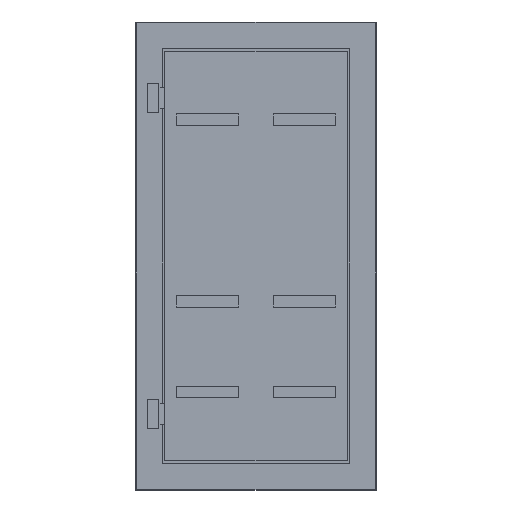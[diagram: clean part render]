
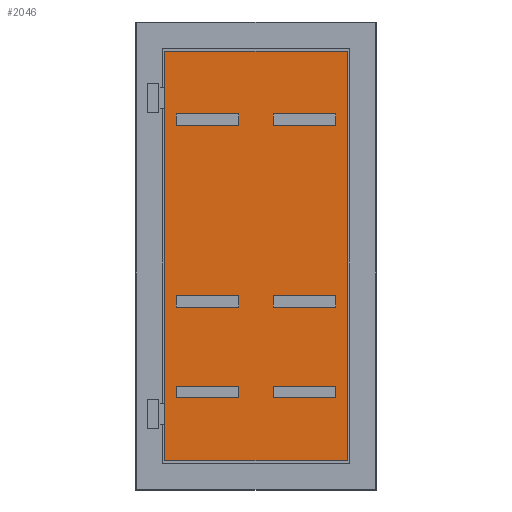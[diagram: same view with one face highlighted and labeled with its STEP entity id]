
A CAD part, top view. The second image highlights one B-rep face of the part: STEP entity #2046.
In plain terms, the highlighted planar face has unit normal (0, 0, 1).
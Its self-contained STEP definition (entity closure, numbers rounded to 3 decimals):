
#395=DIRECTION('',(0.,-1.,0.));
#396=VECTOR('',#395,1802.);
#397=CARTESIAN_POINT('',(-401.,901.,-41.));
#398=LINE('',#397,#396);
#399=DIRECTION('',(-1.,0.,0.));
#400=VECTOR('',#399,802.);
#401=CARTESIAN_POINT('',(401.,901.,-41.));
#402=LINE('',#401,#400);
#403=DIRECTION('',(0.,1.,0.));
#404=VECTOR('',#403,1802.);
#405=CARTESIAN_POINT('',(401.,-901.,-41.));
#406=LINE('',#405,#404);
#407=DIRECTION('',(1.,0.,0.));
#408=VECTOR('',#407,802.);
#409=CARTESIAN_POINT('',(-401.,-901.,-41.));
#410=LINE('',#409,#408);
#411=DIRECTION('',(1.,0.,0.));
#412=VECTOR('',#411,275.);
#413=CARTESIAN_POINT('',(-350.,575.,-41.));
#414=LINE('',#413,#412);
#415=DIRECTION('',(0.,1.,0.));
#416=VECTOR('',#415,50.);
#417=CARTESIAN_POINT('',(-75.,575.,-41.));
#418=LINE('',#417,#416);
#419=DIRECTION('',(1.,0.,0.));
#420=VECTOR('',#419,275.);
#421=CARTESIAN_POINT('',(-350.,625.,-41.));
#422=LINE('',#421,#420);
#423=DIRECTION('',(0.,1.,0.));
#424=VECTOR('',#423,50.);
#425=CARTESIAN_POINT('',(-350.,575.,-41.));
#426=LINE('',#425,#424);
#427=DIRECTION('',(1.,0.,0.));
#428=VECTOR('',#427,275.);
#429=CARTESIAN_POINT('',(75.,575.,-41.));
#430=LINE('',#429,#428);
#431=DIRECTION('',(0.,1.,0.));
#432=VECTOR('',#431,50.);
#433=CARTESIAN_POINT('',(350.,575.,-41.));
#434=LINE('',#433,#432);
#435=DIRECTION('',(1.,0.,0.));
#436=VECTOR('',#435,275.);
#437=CARTESIAN_POINT('',(75.,625.,-41.));
#438=LINE('',#437,#436);
#439=DIRECTION('',(0.,1.,0.));
#440=VECTOR('',#439,50.);
#441=CARTESIAN_POINT('',(75.,575.,-41.));
#442=LINE('',#441,#440);
#443=DIRECTION('',(0.,-1.,0.));
#444=VECTOR('',#443,50.);
#445=CARTESIAN_POINT('',(75.,-175.,-41.));
#446=LINE('',#445,#444);
#447=DIRECTION('',(1.,0.,0.));
#448=VECTOR('',#447,275.);
#449=CARTESIAN_POINT('',(75.,-225.,-41.));
#450=LINE('',#449,#448);
#451=DIRECTION('',(0.,1.,0.));
#452=VECTOR('',#451,50.);
#453=CARTESIAN_POINT('',(350.,-225.,-41.));
#454=LINE('',#453,#452);
#455=DIRECTION('',(-1.,0.,0.));
#456=VECTOR('',#455,275.);
#457=CARTESIAN_POINT('',(350.,-175.,-41.));
#458=LINE('',#457,#456);
#459=DIRECTION('',(-1.,0.,0.));
#460=VECTOR('',#459,275.);
#461=CARTESIAN_POINT('',(-75.,-175.,-41.));
#462=LINE('',#461,#460);
#463=DIRECTION('',(0.,-1.,0.));
#464=VECTOR('',#463,50.);
#465=CARTESIAN_POINT('',(-350.,-175.,-41.));
#466=LINE('',#465,#464);
#467=DIRECTION('',(1.,0.,0.));
#468=VECTOR('',#467,275.);
#469=CARTESIAN_POINT('',(-350.,-225.,-41.));
#470=LINE('',#469,#468);
#471=DIRECTION('',(0.,1.,0.));
#472=VECTOR('',#471,50.);
#473=CARTESIAN_POINT('',(-75.,-225.,-41.));
#474=LINE('',#473,#472);
#475=DIRECTION('',(0.,-1.,0.));
#476=VECTOR('',#475,50.);
#477=CARTESIAN_POINT('',(75.,-575.,-41.));
#478=LINE('',#477,#476);
#479=DIRECTION('',(1.,0.,0.));
#480=VECTOR('',#479,275.);
#481=CARTESIAN_POINT('',(75.,-625.,-41.));
#482=LINE('',#481,#480);
#483=DIRECTION('',(0.,1.,0.));
#484=VECTOR('',#483,50.);
#485=CARTESIAN_POINT('',(350.,-625.,-41.));
#486=LINE('',#485,#484);
#487=DIRECTION('',(-1.,0.,0.));
#488=VECTOR('',#487,275.);
#489=CARTESIAN_POINT('',(350.,-575.,-41.));
#490=LINE('',#489,#488);
#491=DIRECTION('',(-1.,0.,0.));
#492=VECTOR('',#491,275.);
#493=CARTESIAN_POINT('',(-75.,-575.,-41.));
#494=LINE('',#493,#492);
#495=DIRECTION('',(0.,-1.,0.));
#496=VECTOR('',#495,50.);
#497=CARTESIAN_POINT('',(-350.,-575.,-41.));
#498=LINE('',#497,#496);
#499=DIRECTION('',(1.,0.,0.));
#500=VECTOR('',#499,275.);
#501=CARTESIAN_POINT('',(-350.,-625.,-41.));
#502=LINE('',#501,#500);
#503=DIRECTION('',(0.,1.,0.));
#504=VECTOR('',#503,50.);
#505=CARTESIAN_POINT('',(-75.,-625.,-41.));
#506=LINE('',#505,#504);
#1183=CARTESIAN_POINT('',(-401.,901.,-41.));
#1184=CARTESIAN_POINT('',(-401.,-901.,-41.));
#1185=VERTEX_POINT('',#1183);
#1186=VERTEX_POINT('',#1184);
#1187=CARTESIAN_POINT('',(401.,-901.,-41.));
#1188=VERTEX_POINT('',#1187);
#1189=CARTESIAN_POINT('',(401.,901.,-41.));
#1190=VERTEX_POINT('',#1189);
#1311=CARTESIAN_POINT('',(-350.,575.,-41.));
#1312=CARTESIAN_POINT('',(-75.,575.,-41.));
#1313=VERTEX_POINT('',#1311);
#1314=VERTEX_POINT('',#1312);
#1315=CARTESIAN_POINT('',(75.,575.,-41.));
#1316=CARTESIAN_POINT('',(350.,575.,-41.));
#1317=VERTEX_POINT('',#1315);
#1318=VERTEX_POINT('',#1316);
#1319=CARTESIAN_POINT('',(-350.,625.,-41.));
#1320=CARTESIAN_POINT('',(-75.,625.,-41.));
#1321=VERTEX_POINT('',#1319);
#1322=VERTEX_POINT('',#1320);
#1323=CARTESIAN_POINT('',(75.,625.,-41.));
#1324=CARTESIAN_POINT('',(350.,625.,-41.));
#1325=VERTEX_POINT('',#1323);
#1326=VERTEX_POINT('',#1324);
#1375=CARTESIAN_POINT('',(75.,-175.,-41.));
#1376=CARTESIAN_POINT('',(75.,-225.,-41.));
#1377=VERTEX_POINT('',#1375);
#1378=VERTEX_POINT('',#1376);
#1379=CARTESIAN_POINT('',(350.,-225.,-41.));
#1380=VERTEX_POINT('',#1379);
#1381=CARTESIAN_POINT('',(350.,-175.,-41.));
#1382=VERTEX_POINT('',#1381);
#1383=CARTESIAN_POINT('',(-75.,-175.,-41.));
#1384=CARTESIAN_POINT('',(-350.,-175.,-41.));
#1385=VERTEX_POINT('',#1383);
#1386=VERTEX_POINT('',#1384);
#1387=CARTESIAN_POINT('',(-350.,-225.,-41.));
#1388=VERTEX_POINT('',#1387);
#1389=CARTESIAN_POINT('',(-75.,-225.,-41.));
#1390=VERTEX_POINT('',#1389);
#1439=CARTESIAN_POINT('',(75.,-575.,-41.));
#1440=CARTESIAN_POINT('',(75.,-625.,-41.));
#1441=VERTEX_POINT('',#1439);
#1442=VERTEX_POINT('',#1440);
#1443=CARTESIAN_POINT('',(350.,-625.,-41.));
#1444=VERTEX_POINT('',#1443);
#1445=CARTESIAN_POINT('',(350.,-575.,-41.));
#1446=VERTEX_POINT('',#1445);
#1447=CARTESIAN_POINT('',(-75.,-575.,-41.));
#1448=CARTESIAN_POINT('',(-350.,-575.,-41.));
#1449=VERTEX_POINT('',#1447);
#1450=VERTEX_POINT('',#1448);
#1451=CARTESIAN_POINT('',(-350.,-625.,-41.));
#1452=VERTEX_POINT('',#1451);
#1453=CARTESIAN_POINT('',(-75.,-625.,-41.));
#1454=VERTEX_POINT('',#1453);
#1977=CARTESIAN_POINT('',(0.,0.,-41.));
#1978=DIRECTION('',(0.,0.,1.));
#1979=DIRECTION('',(1.,0.,0.));
#1980=AXIS2_PLACEMENT_3D('',#1977,#1978,#1979);
#1981=PLANE('',#1980);
#1983=ORIENTED_EDGE('',*,*,#1982,.F.);
#1985=ORIENTED_EDGE('',*,*,#1984,.F.);
#1987=ORIENTED_EDGE('',*,*,#1986,.F.);
#1989=ORIENTED_EDGE('',*,*,#1988,.F.);
#1990=EDGE_LOOP('',(#1983,#1985,#1987,#1989));
#1991=FACE_OUTER_BOUND('',#1990,.F.);
#1992=ORIENTED_EDGE('',*,*,#1745,.T.);
#1993=ORIENTED_EDGE('',*,*,#1812,.T.);
#1994=ORIENTED_EDGE('',*,*,#1877,.F.);
#1995=ORIENTED_EDGE('',*,*,#1942,.F.);
#1996=EDGE_LOOP('',(#1992,#1993,#1994,#1995));
#1997=FACE_BOUND('',#1996,.F.);
#1998=ORIENTED_EDGE('',*,*,#1768,.T.);
#2000=ORIENTED_EDGE('',*,*,#1999,.T.);
#2001=ORIENTED_EDGE('',*,*,#1899,.F.);
#2003=ORIENTED_EDGE('',*,*,#2002,.F.);
#2004=EDGE_LOOP('',(#1998,#2000,#2001,#2003));
#2005=FACE_BOUND('',#2004,.F.);
#2007=ORIENTED_EDGE('',*,*,#2006,.T.);
#2009=ORIENTED_EDGE('',*,*,#2008,.T.);
#2011=ORIENTED_EDGE('',*,*,#2010,.T.);
#2013=ORIENTED_EDGE('',*,*,#2012,.T.);
#2014=EDGE_LOOP('',(#2007,#2009,#2011,#2013));
#2015=FACE_BOUND('',#2014,.F.);
#2017=ORIENTED_EDGE('',*,*,#2016,.T.);
#2019=ORIENTED_EDGE('',*,*,#2018,.T.);
#2021=ORIENTED_EDGE('',*,*,#2020,.T.);
#2023=ORIENTED_EDGE('',*,*,#2022,.T.);
#2024=EDGE_LOOP('',(#2017,#2019,#2021,#2023));
#2025=FACE_BOUND('',#2024,.F.);
#2027=ORIENTED_EDGE('',*,*,#2026,.T.);
#2029=ORIENTED_EDGE('',*,*,#2028,.T.);
#2031=ORIENTED_EDGE('',*,*,#2030,.T.);
#2033=ORIENTED_EDGE('',*,*,#2032,.T.);
#2034=EDGE_LOOP('',(#2027,#2029,#2031,#2033));
#2035=FACE_BOUND('',#2034,.F.);
#2037=ORIENTED_EDGE('',*,*,#2036,.T.);
#2039=ORIENTED_EDGE('',*,*,#2038,.T.);
#2041=ORIENTED_EDGE('',*,*,#2040,.T.);
#2043=ORIENTED_EDGE('',*,*,#2042,.T.);
#2044=EDGE_LOOP('',(#2037,#2039,#2041,#2043));
#2045=FACE_BOUND('',#2044,.F.);
#1745=EDGE_CURVE('',#1313,#1314,#414,.T.);
#1768=EDGE_CURVE('',#1317,#1318,#430,.T.);
#1812=EDGE_CURVE('',#1314,#1322,#418,.T.);
#1877=EDGE_CURVE('',#1321,#1322,#422,.T.);
#1899=EDGE_CURVE('',#1325,#1326,#438,.T.);
#1942=EDGE_CURVE('',#1313,#1321,#426,.T.);
#1982=EDGE_CURVE('',#1185,#1186,#398,.T.);
#1984=EDGE_CURVE('',#1190,#1185,#402,.T.);
#1986=EDGE_CURVE('',#1188,#1190,#406,.T.);
#1988=EDGE_CURVE('',#1186,#1188,#410,.T.);
#1999=EDGE_CURVE('',#1318,#1326,#434,.T.);
#2002=EDGE_CURVE('',#1317,#1325,#442,.T.);
#2006=EDGE_CURVE('',#1377,#1378,#446,.T.);
#2008=EDGE_CURVE('',#1378,#1380,#450,.T.);
#2010=EDGE_CURVE('',#1380,#1382,#454,.T.);
#2012=EDGE_CURVE('',#1382,#1377,#458,.T.);
#2016=EDGE_CURVE('',#1385,#1386,#462,.T.);
#2018=EDGE_CURVE('',#1386,#1388,#466,.T.);
#2020=EDGE_CURVE('',#1388,#1390,#470,.T.);
#2022=EDGE_CURVE('',#1390,#1385,#474,.T.);
#2026=EDGE_CURVE('',#1441,#1442,#478,.T.);
#2028=EDGE_CURVE('',#1442,#1444,#482,.T.);
#2030=EDGE_CURVE('',#1444,#1446,#486,.T.);
#2032=EDGE_CURVE('',#1446,#1441,#490,.T.);
#2036=EDGE_CURVE('',#1449,#1450,#494,.T.);
#2038=EDGE_CURVE('',#1450,#1452,#498,.T.);
#2040=EDGE_CURVE('',#1452,#1454,#502,.T.);
#2042=EDGE_CURVE('',#1454,#1449,#506,.T.);
#2046=ADVANCED_FACE('',(#1991,#1997,#2005,#2015,#2025,#2035,#2045),#1981,.T.);
